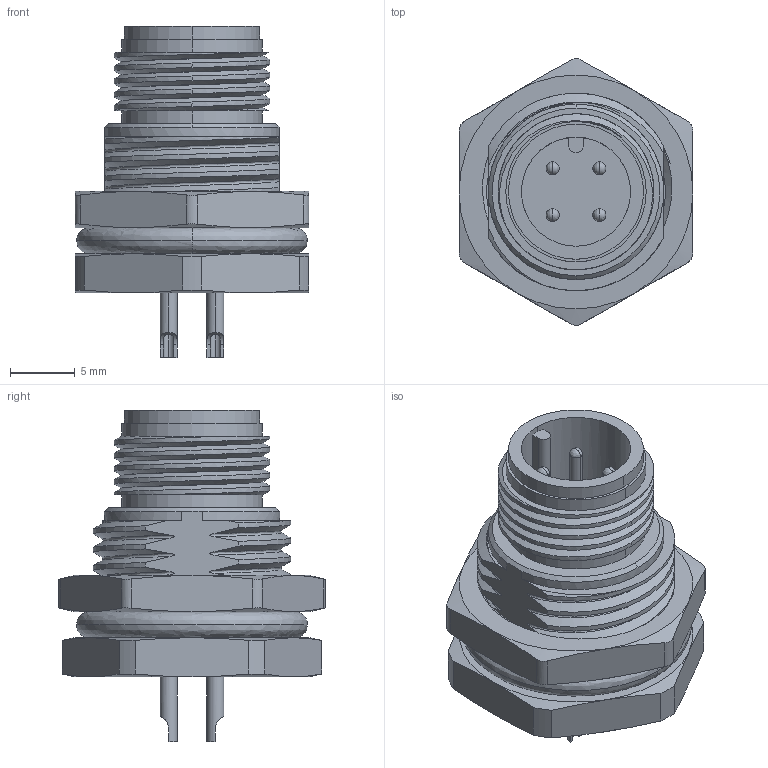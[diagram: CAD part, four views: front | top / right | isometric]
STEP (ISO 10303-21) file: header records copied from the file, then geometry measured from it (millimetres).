
FILE_DESCRIPTION (( 'STEP AP203' ), '1' );
FILE_NAME ('859-004-103RPG4.STEP', '2025-12-16T18:04:54', ( '' ), ( '' ), 'SwSTEP 2.0', 'SolidWorks 2020', '' );
FILE_SCHEMA (( 'CONFIG_CONTROL_DESIGN' ));
Length unit declared in the file: millimetre
Products named in the file (1): 859-004-103RPG4
Bounding box: 18 x 20.5 x 25.5 mm (x, y, z)
Volume: 3155.6 mm3; surface area: 2871.9 mm2
Topology: 2 solids, 2 shells, 213 faces, 607 edges, 374 vertices
Faces by surface type: cylinder 78, bspline 56, plane 42, cone 37
Entity records: 25517 total; most frequent: CARTESIAN_POINT 20664, ORIENTED_EDGE 1166, DIRECTION 736, EDGE_CURVE 583, VERTEX_POINT 374, B_SPLINE_CURVE_WITH_KNOTS 293, AXIS2_PLACEMENT_3D 288, EDGE_LOOP 231
